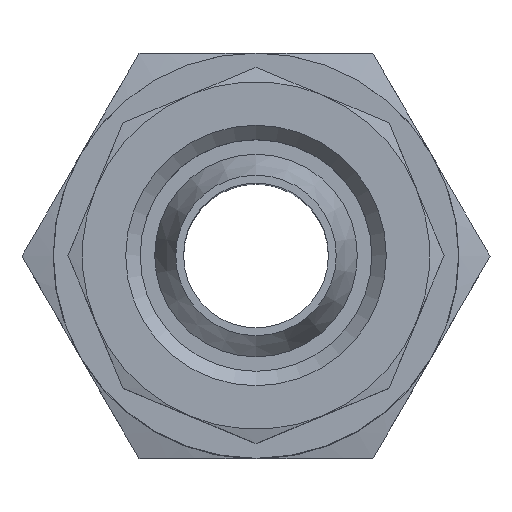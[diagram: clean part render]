
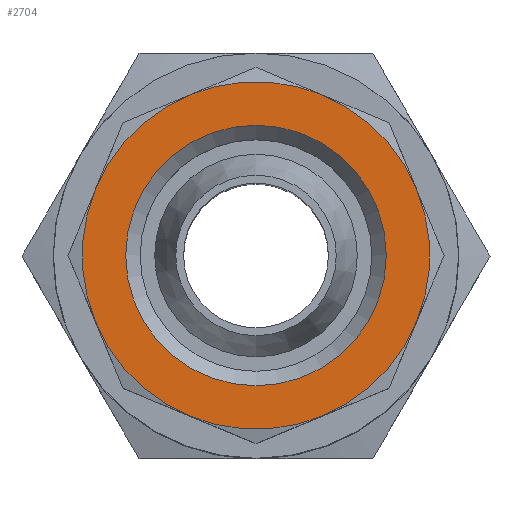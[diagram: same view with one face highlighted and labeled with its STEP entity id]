
A CAD part, top view. The second image highlights one B-rep face of the part: STEP entity #2704.
In plain terms, the highlighted planar face has unit normal (0, 0, 1) as drawn and (0, 1, 0) by its records, which use the part's own axes.
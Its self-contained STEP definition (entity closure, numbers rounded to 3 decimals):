
#1368=PLANE('',#2507);
#1416=ORIENTED_EDGE('',*,*,#1799,.F.);
#1417=ORIENTED_EDGE('',*,*,#1800,.F.);
#1418=ORIENTED_EDGE('',*,*,#1801,.F.);
#1419=ORIENTED_EDGE('',*,*,#1802,.F.);
#1420=ORIENTED_EDGE('',*,*,#1803,.F.);
#1421=ORIENTED_EDGE('',*,*,#1804,.F.);
#1422=ORIENTED_EDGE('',*,*,#1805,.F.);
#1423=ORIENTED_EDGE('',*,*,#1806,.F.);
#1424=ORIENTED_EDGE('',*,*,#1798,.T.);
#1656=CIRCLE('',#2506,4.5);
#1657=CIRCLE('',#2508,6.);
#1658=CIRCLE('',#2509,6.);
#1659=CIRCLE('',#2510,6.);
#1660=CIRCLE('',#2511,6.);
#1661=CIRCLE('',#2512,6.);
#1662=CIRCLE('',#2513,6.);
#1663=CIRCLE('',#2514,6.);
#1664=CIRCLE('',#2515,6.);
#1710=VERTEX_POINT('',#2788);
#1711=VERTEX_POINT('',#2791);
#1712=VERTEX_POINT('',#2792);
#1713=VERTEX_POINT('',#2794);
#1714=VERTEX_POINT('',#2796);
#1715=VERTEX_POINT('',#2798);
#1716=VERTEX_POINT('',#2800);
#1717=VERTEX_POINT('',#2802);
#1718=VERTEX_POINT('',#2804);
#1798=EDGE_CURVE('',#1710,#1710,#1656,.T.);
#1799=EDGE_CURVE('',#1711,#1712,#1657,.T.);
#1800=EDGE_CURVE('',#1713,#1711,#1658,.T.);
#1801=EDGE_CURVE('',#1714,#1713,#1659,.T.);
#1802=EDGE_CURVE('',#1715,#1714,#1660,.T.);
#1803=EDGE_CURVE('',#1716,#1715,#1661,.T.);
#1804=EDGE_CURVE('',#1717,#1716,#1662,.T.);
#1805=EDGE_CURVE('',#1718,#1717,#1663,.T.);
#1806=EDGE_CURVE('',#1712,#1718,#1664,.T.);
#1924=EDGE_LOOP('',(#1416,#1417,#1418,#1419,#1420,#1421,#1422,#1423));
#1925=EDGE_LOOP('',(#1424));
#2030=FACE_BOUND('',#1924,.T.);
#2031=FACE_BOUND('',#1925,.T.);
#2144=DIRECTION('',(0.,-1.,0.));
#2145=DIRECTION('',(0.,0.,-4.5));
#2146=DIRECTION('',(0.,1.,0.));
#2147=DIRECTION('',(1.,0.,0.));
#2148=DIRECTION('',(0.,-1.,0.));
#2149=DIRECTION('',(0.,0.,6.));
#2150=DIRECTION('',(0.,-1.,0.));
#2151=DIRECTION('',(0.,0.,6.));
#2152=DIRECTION('',(0.,-1.,0.));
#2153=DIRECTION('',(0.,0.,6.));
#2154=DIRECTION('',(0.,-1.,0.));
#2155=DIRECTION('',(0.,0.,6.));
#2156=DIRECTION('',(0.,-1.,0.));
#2157=DIRECTION('',(0.,0.,6.));
#2158=DIRECTION('',(0.,-1.,0.));
#2159=DIRECTION('',(0.,0.,6.));
#2160=DIRECTION('',(0.,-1.,0.));
#2161=DIRECTION('',(0.,0.,6.));
#2162=DIRECTION('',(0.,-1.,0.));
#2163=DIRECTION('',(0.,0.,6.));
#2506=AXIS2_PLACEMENT_3D('',#2789,#2144,#2145);
#2507=AXIS2_PLACEMENT_3D('',#2790,#2146,#2147);
#2508=AXIS2_PLACEMENT_3D('',#2793,#2148,#2149);
#2509=AXIS2_PLACEMENT_3D('',#2795,#2150,#2151);
#2510=AXIS2_PLACEMENT_3D('',#2797,#2152,#2153);
#2511=AXIS2_PLACEMENT_3D('',#2799,#2154,#2155);
#2512=AXIS2_PLACEMENT_3D('',#2801,#2156,#2157);
#2513=AXIS2_PLACEMENT_3D('',#2803,#2158,#2159);
#2514=AXIS2_PLACEMENT_3D('',#2805,#2160,#2161);
#2515=AXIS2_PLACEMENT_3D('',#2806,#2162,#2163);
#2704=ADVANCED_FACE('',(#2030,#2031),#1368,.T.);
#2788=CARTESIAN_POINT('',(26.989,26.095,-4.5));
#2789=CARTESIAN_POINT('',(26.989,26.095,0.));
#2790=CARTESIAN_POINT('',(29.285,26.095,5.543));
#2791=CARTESIAN_POINT('',(21.446,26.095,-2.296));
#2792=CARTESIAN_POINT('',(24.693,26.095,-5.543));
#2793=CARTESIAN_POINT('',(26.989,26.095,0.));
#2794=CARTESIAN_POINT('',(21.446,26.095,2.296));
#2795=CARTESIAN_POINT('',(26.989,26.095,0.));
#2796=CARTESIAN_POINT('',(24.693,26.095,5.543));
#2797=CARTESIAN_POINT('',(26.989,26.095,0.));
#2798=CARTESIAN_POINT('',(29.285,26.095,5.543));
#2799=CARTESIAN_POINT('',(26.989,26.095,0.));
#2800=CARTESIAN_POINT('',(32.532,26.095,2.296));
#2801=CARTESIAN_POINT('',(26.989,26.095,0.));
#2802=CARTESIAN_POINT('',(32.532,26.095,-2.296));
#2803=CARTESIAN_POINT('',(26.989,26.095,0.));
#2804=CARTESIAN_POINT('',(29.285,26.095,-5.543));
#2805=CARTESIAN_POINT('',(26.989,26.095,0.));
#2806=CARTESIAN_POINT('',(26.989,26.095,0.));
